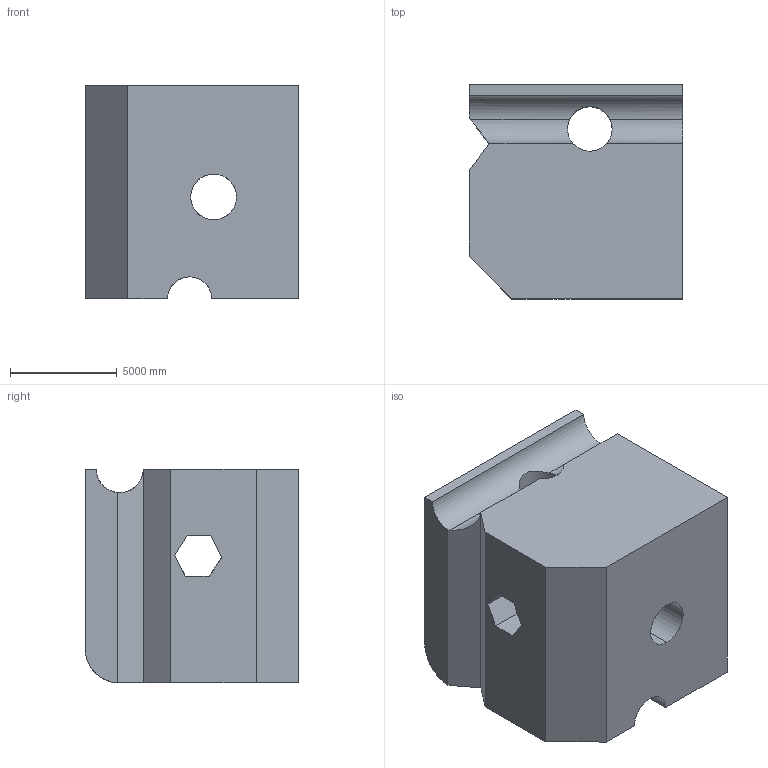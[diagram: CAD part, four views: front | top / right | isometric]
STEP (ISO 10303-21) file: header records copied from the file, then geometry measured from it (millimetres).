
FILE_DESCRIPTION (( 'STEP AP203' ), '1' );
FILE_NAME ('991.STEP', '2022-07-29T15:01:28', ( 'user' ), ( '' ), 'SwSTEP 2.0', 'SolidWorks 2021', '' );
FILE_SCHEMA (( 'CONFIG_CONTROL_DESIGN' ));
Length unit declared in the file: centimetre
Products named in the file (1): 991
Bounding box: 10000 x 10000 x 10000 mm (x, y, z)
Volume: 829237845840 mm3; surface area: 758036478.1 mm2
Topology: 1 solids, 1 shells, 39 faces, 123 edges, 82 vertices
Faces by surface type: plane 23, cylinder 16
Entity records: 2701 total; most frequent: CARTESIAN_POINT 1538, ORIENTED_EDGE 246, DIRECTION 206, EDGE_CURVE 123, VERTEX_POINT 82, VECTOR 76, LINE 76, AXIS2_PLACEMENT_3D 65
